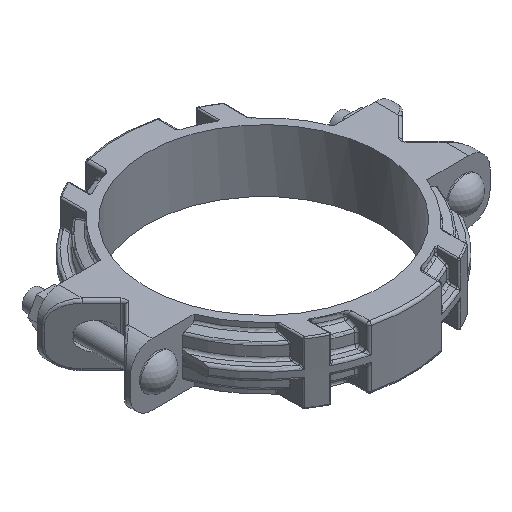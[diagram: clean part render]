
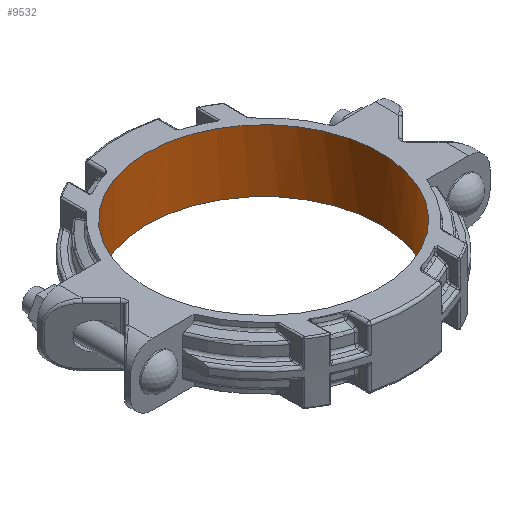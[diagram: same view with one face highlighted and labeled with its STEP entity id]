
A CAD part, isometric view. The second image highlights one B-rep face of the part: STEP entity #9532.
In plain terms, the highlighted cylindrical face has radius 142.875 mm (diameter 285.75 mm), a full revolution.
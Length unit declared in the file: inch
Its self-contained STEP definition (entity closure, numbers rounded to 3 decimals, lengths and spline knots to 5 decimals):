
#937=CYLINDRICAL_SURFACE('',#10539,5.625);
#1524=FACE_OUTER_BOUND('',#2111,.T.);
#2111=EDGE_LOOP('',(#8181,#8182,#8183,#8184,#8185,#8186));
#2518=LINE('',#22573,#2913);
#2913=VECTOR('',#12919,5.625);
#2979=CIRCLE('',#9675,5.625);
#2980=CIRCLE('',#9676,5.625);
#3012=CIRCLE('',#9735,5.625);
#3013=CIRCLE('',#9736,5.625);
#3605=VERTEX_POINT('',#13558);
#3606=VERTEX_POINT('',#13559);
#3680=VERTEX_POINT('',#13975);
#3681=VERTEX_POINT('',#13976);
#4429=EDGE_CURVE('',#3605,#3606,#2979,.T.);
#4430=EDGE_CURVE('',#3606,#3605,#2980,.T.);
#4524=EDGE_CURVE('',#3680,#3681,#3012,.T.);
#4525=EDGE_CURVE('',#3681,#3680,#3013,.T.);
#5600=EDGE_CURVE('',#3681,#3606,#2518,.T.);
#8181=ORIENTED_EDGE('',*,*,#4524,.T.);
#8182=ORIENTED_EDGE('',*,*,#5600,.T.);
#8183=ORIENTED_EDGE('',*,*,#4429,.F.);
#8184=ORIENTED_EDGE('',*,*,#4430,.F.);
#8185=ORIENTED_EDGE('',*,*,#5600,.F.);
#8186=ORIENTED_EDGE('',*,*,#4525,.T.);
#9532=ADVANCED_FACE('',(#1524),#937,.F.);
#9675=AXIS2_PLACEMENT_3D('',#13560,#10885,#10886);
#9676=AXIS2_PLACEMENT_3D('',#13561,#10887,#10888);
#9735=AXIS2_PLACEMENT_3D('',#13977,#11043,#11044);
#9736=AXIS2_PLACEMENT_3D('',#13978,#11045,#11046);
#10539=AXIS2_PLACEMENT_3D('',#22572,#12917,#12918);
#10885=DIRECTION('center_axis',(0.,0.,-1.));
#10886=DIRECTION('ref_axis',(1.,0.,0.));
#10887=DIRECTION('center_axis',(0.,0.,-1.));
#10888=DIRECTION('ref_axis',(1.,0.,0.));
#11043=DIRECTION('center_axis',(0.,0.,-1.));
#11044=DIRECTION('ref_axis',(-1.,0.,0.));
#11045=DIRECTION('center_axis',(0.,0.,-1.));
#11046=DIRECTION('ref_axis',(-1.,0.,0.));
#12917=DIRECTION('center_axis',(0.,0.,-1.));
#12918=DIRECTION('ref_axis',(0.,-1.,0.));
#12919=DIRECTION('',(0.,0.,1.));
#13558=CARTESIAN_POINT('',(5.1554,-2.25,1.5));
#13559=CARTESIAN_POINT('',(0.,5.625,1.5));
#13560=CARTESIAN_POINT('Origin',(0.,0.,1.5));
#13561=CARTESIAN_POINT('Origin',(0.,0.,1.5));
#13975=CARTESIAN_POINT('',(-5.625,0.,-1.5));
#13976=CARTESIAN_POINT('',(0.,5.625,-1.5));
#13977=CARTESIAN_POINT('Origin',(0.,0.,
-1.5));
#13978=CARTESIAN_POINT('Origin',(0.,0.,
-1.5));
#22572=CARTESIAN_POINT('Origin',(0.,0.,
0.));
#22573=CARTESIAN_POINT('',(0.,5.625,0.));
